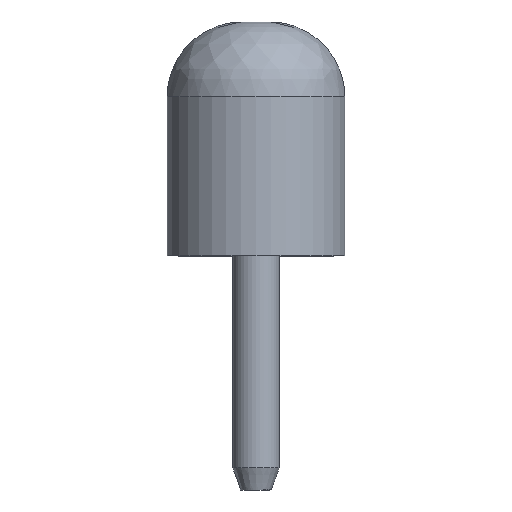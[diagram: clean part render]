
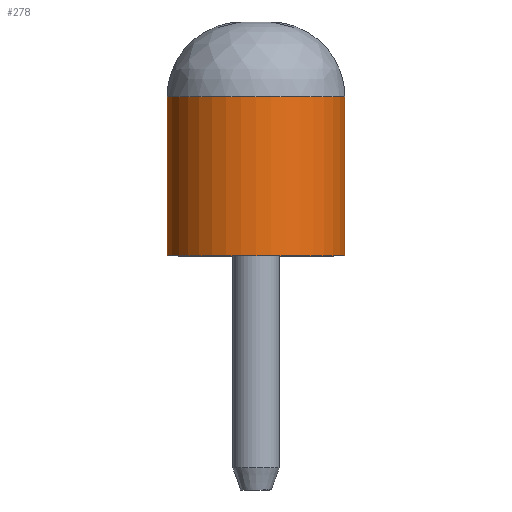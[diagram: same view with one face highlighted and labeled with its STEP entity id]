
A CAD part, left-side view. The second image highlights one B-rep face of the part: STEP entity #278.
In plain terms, the highlighted cylindrical face has radius 1.206 mm (diameter 2.413 mm), a partial arc.
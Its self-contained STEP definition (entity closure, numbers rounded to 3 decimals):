
#25=LINE($,#490,#39);
#27=LINE($,#499,#41);
#39=VECTOR($,#381,2.159);
#41=VECTOR($,#397,2.159);
#75=FACE_OUTER_BOUND($,#99,.T.);
#99=EDGE_LOOP($,(#232,#233,#234,#235));
#107=CIRCLE($,#296,1.207);
#117=CIRCLE($,#312,1.207);
#124=VERTEX_POINT($,#420);
#127=VERTEX_POINT($,#425);
#132=VERTEX_POINT($,#436);
#139=VERTEX_POINT($,#468);
#149=EDGE_CURVE($,#127,#124,#107,.T.);
#167=EDGE_CURVE($,#124,#139,#25,.T.);
#169=EDGE_CURVE($,#132,#139,#117,.T.);
#171=EDGE_CURVE($,#127,#132,#27,.T.);
#232=ORIENTED_EDGE($,*,*,#169,.T.);
#233=ORIENTED_EDGE($,*,*,#167,.F.);
#234=ORIENTED_EDGE($,*,*,#149,.F.);
#235=ORIENTED_EDGE($,*,*,#171,.T.);
#241=CYLINDRICAL_SURFACE($,#315,1.207);
#278=ADVANCED_FACE($,(#75),#241,.T.);
#296=AXIS2_PLACEMENT_3D($,#427,#348,#349);
#312=AXIS2_PLACEMENT_3D($,#495,#390,#391);
#315=AXIS2_PLACEMENT_3D($,#500,#398,#399);
#348=DIRECTION('center_axis',(0.,0.,-1.));
#349=DIRECTION('ref_axis',(0.,-1.,0.));
#381=DIRECTION($,(0.,0.,1.));
#390=DIRECTION('center_axis',(0.,0.,-1.));
#391=DIRECTION('ref_axis',(0.,-1.,0.));
#397=DIRECTION($,(0.,0.,1.));
#398=DIRECTION('center_axis',(0.,0.,1.));
#399=DIRECTION('ref_axis',(0.,-1.,0.));
#420=CARTESIAN_POINT('',(-5.067,1.207,0.));
#425=CARTESIAN_POINT('',(-5.067,-1.207,0.));
#427=CARTESIAN_POINT('Origin',(-5.067,0.,0.));
#436=CARTESIAN_POINT('',(-5.067,-1.207,2.159));
#468=CARTESIAN_POINT('',(-5.067,1.207,2.159));
#490=CARTESIAN_POINT($,(-5.067,1.207,0.));
#495=CARTESIAN_POINT('Origin',(-5.067,0.,2.159));
#499=CARTESIAN_POINT($,(-5.067,-1.207,0.));
#500=CARTESIAN_POINT('Origin',(-5.067,0.,0.));
